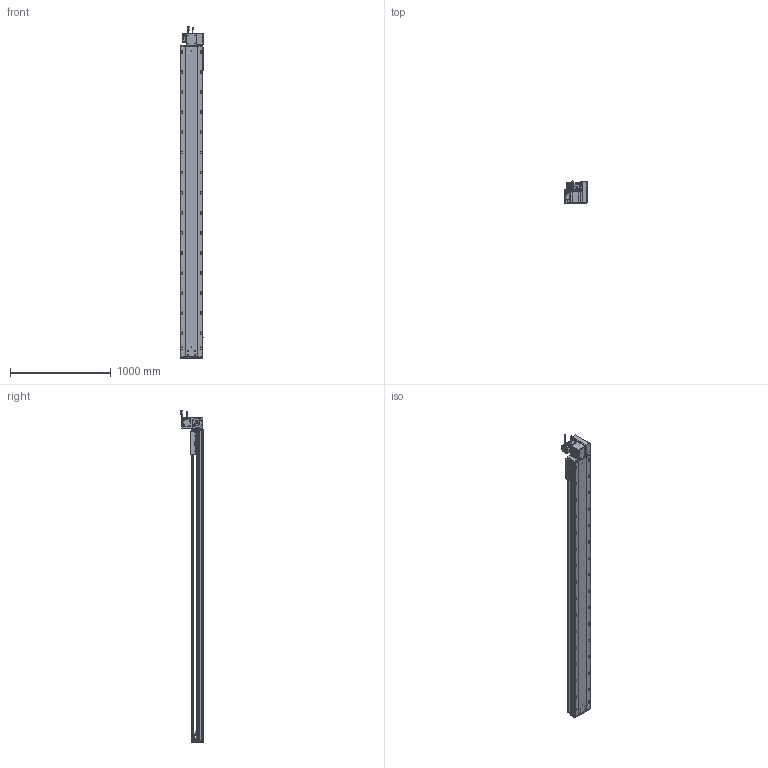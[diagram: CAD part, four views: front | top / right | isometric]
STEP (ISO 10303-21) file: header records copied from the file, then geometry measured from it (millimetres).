
FILE_DESCRIPTION (( 'STEP AP203' ), '1' );
FILE_NAME ('RY220-T-300-UR.SLDASM_2750.step', '2022-07-25T08:45:47', ( '' ), ( '' ), 'SwSTEP 2.0', 'SolidWorks 2016', '' );
FILE_SCHEMA (( 'CONFIG_CONTROL_DESIGN' ));
Length unit declared in the file: millimetre
Products named in the file (14): RY220-俋离672覜茼んえ; 滅袉蝶18-15; RY220-同步轮副支撑座6304×2; RY220翋肮祭謫裔啣; 110A-T-肮祭謫釱傷裔; RY220-T-300-UR.SLDASM_2750; RY220-T-300-奻裔啣_2750; RY220翋肮祭謫釱; RY220-T菁釱-300_2750; RY220圉猾敕々湍臏賑輸; RY220-T-蛌殏萇儂假蚾啣(750W); 怢湛750W_ECMA-CX0807ES; RY220-T-湍謫欶(鍼踢); 覜茼ん672
Assembly tree (18 placements, depth 2):
  RY220-T-300-UR.SLDASM_2750
    RY220-T菁釱-300_2750
    RY220翋肮祭謫釱
    覜茼ん672  x3
    RY220圉猾敕々湍臏賑輸
    RY220-T-300-奻裔啣_2750
    RY220-俋离672覜茼んえ
    滅袉蝶18-15  x3
    RY220翋肮祭謫裔啣  x2
    110A-T-肮祭謫釱傷裔
    怢湛750W_ECMA-CX0807ES
    RY220-T-湍謫欶(鍼踢)
    RY220-T-蛌殏萇儂假蚾啣(750W)
    RY220-同步轮副支撑座6304×2
Bounding box: 238.7 x 231.74 x 3303.27 mm (x, y, z)
Volume: 23585506.5 mm3; surface area: 7271844 mm2
Topology: 19 solids, 19 shells, 2982 faces, 8247 edges, 5168 vertices
Faces by surface type: cylinder 1466, plane 1069, cone 365, bspline 56, sphere 16, torus 10
Entity records: 99411 total; most frequent: CARTESIAN_POINT 28053, ORIENTED_EDGE 14746, DIRECTION 14224, EDGE_CURVE 7373, AXIS2_PLACEMENT_3D 5128, VERTEX_POINT 4792, VECTOR 3968, LINE 3968
